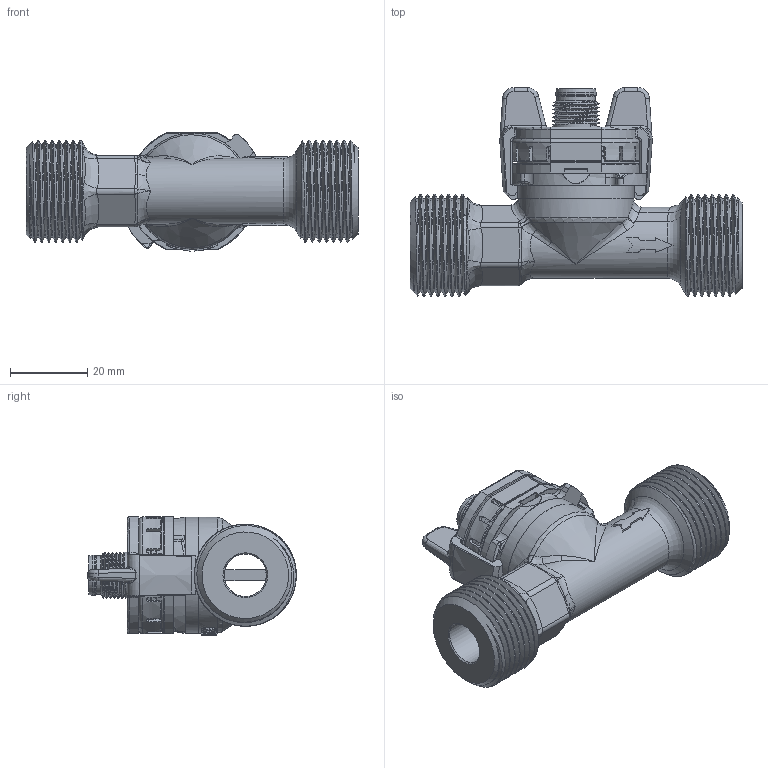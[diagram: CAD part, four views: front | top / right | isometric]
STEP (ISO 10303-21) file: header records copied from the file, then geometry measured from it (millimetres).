
FILE_DESCRIPTION(/* description */ (''),/* implementation_level */ '2;1');
FILE_NAME(/* name */ '2x5_x10x5xM.stp',/* time_stamp */ '2020-07-06T10:26:16+02:00',/* author */ (''),/* organization */ (''),/* preprocessor_version */ 'ST-DEVELOPER v16.7',/* originating_system */ 'SIEMENS PLM Software NX 12.0',/* authorisation */ '');
FILE_SCHEMA (('AUTOMOTIVE_DESIGN { 1 0 10303 214 3 1 1 1 }'));
Products named in the file (1): model1
Bounding box: 86 x 54.07 x 30.59 mm (x, y, z)
Volume: 16128.3 mm3; surface area: 23032.8 mm2
Topology: 3 solids, 4 shells, 1009 faces, 2706 edges, 1697 vertices
Faces by surface type: plane 362, cylinder 228, bspline 183, cone 88, torus 70, extrusion 67, sphere 10, revolution 1
Full cylindrical faces by diameter (mm): 1 x7, 5.76 x3, 7.98 x4, 8.12 x2, 10 x1, 10.4 x1, 11 x1, 11.6 x1, 15.22 x1, 15.4 x1, 29.99 x1
Entity records: 50807 total; most frequent: CARTESIAN_POINT 24065, ORIENTED_EDGE 5130, DIRECTION 4307, EDGE_CURVE 2565, AXIS2_PLACEMENT_3D 1685, VERTEX_POINT 1658, EDGE_LOOP 1128, ADVANCED_FACE 1008
